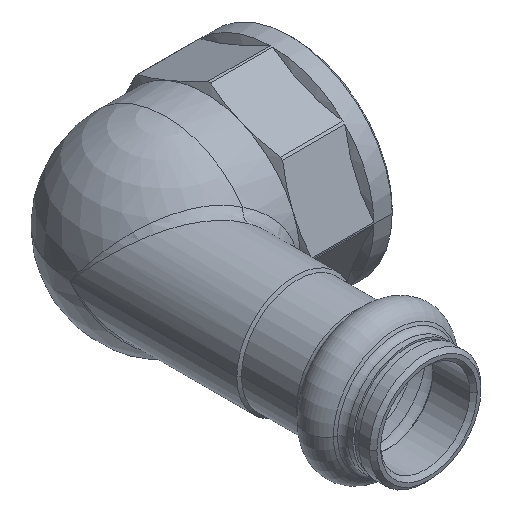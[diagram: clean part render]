
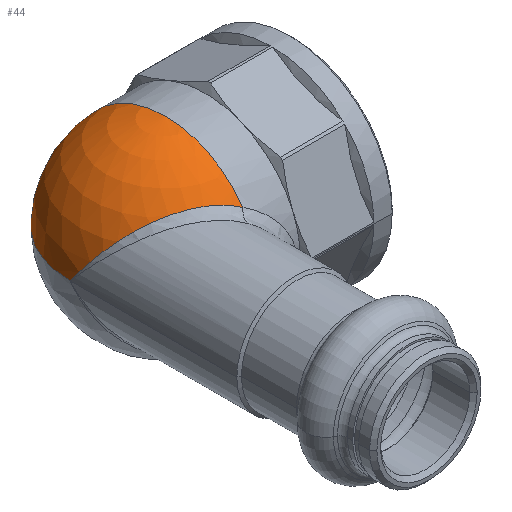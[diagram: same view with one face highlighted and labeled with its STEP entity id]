
A CAD part, isometric view. The second image highlights one B-rep face of the part: STEP entity #44.
In plain terms, the highlighted spherical face has radius 13 mm.
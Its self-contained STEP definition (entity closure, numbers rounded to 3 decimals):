
#32 = CARTESIAN_POINT ( 'NONE',  ( -7.91, -1.02, 1.443 ) ) ;
#44 = ADVANCED_FACE ( 'NONE', ( #2830 ), #1423, .T. ) ;
#48 = CARTESIAN_POINT ( 'NONE',  ( -2.627, -6.828, 8.025 ) ) ;
#200 = VERTEX_POINT ( 'NONE', #2105 ) ;
#249 = ORIENTED_EDGE ( 'NONE', *, *, #1558, .T. ) ;
#266 = AXIS2_PLACEMENT_3D ( 'NONE', #706, #2420, #965 ) ;
#287 = CARTESIAN_POINT ( 'NONE',  ( -7.53, -2.034, 2.839 ) ) ;
#296 = CARTESIAN_POINT ( 'NONE',  ( -1.547, -7.481, 8.388 ) ) ;
#320 = CARTESIAN_POINT ( 'NONE',  ( 5., 0., 0. ) ) ;
#517 = CARTESIAN_POINT ( 'NONE',  ( 5., 0., 0. ) ) ;
#532 = CARTESIAN_POINT ( 'NONE',  ( -8., 0., 0. ) ) ;
#544 = CARTESIAN_POINT ( 'NONE',  ( -7.114, -2.782, 3.835 ) ) ;
#553 = VERTEX_POINT ( 'NONE', #1397 ) ;
#556 = CARTESIAN_POINT ( 'NONE',  ( -0.405, -8.116, 8.609 ) ) ;
#576 = DIRECTION ( 'NONE',  ( 1., 0., 0. ) ) ;
#706 = CARTESIAN_POINT ( 'NONE',  ( 5., 0., 0. ) ) ;
#799 = CARTESIAN_POINT ( 'NONE',  ( -6.576, -3.522, 4.774 ) ) ;
#810 = CARTESIAN_POINT ( 'NONE',  ( 0.763, -8.717, 8.675 ) ) ;
#842 = CARTESIAN_POINT ( 'NONE',  ( 5., -10.614, 7.506 ) ) ;
#925 = ORIENTED_EDGE ( 'NONE', *, *, #1956, .T. ) ;
#965 = DIRECTION ( 'NONE',  ( 0., -1., 0. ) ) ;
#1050 = CARTESIAN_POINT ( 'NONE',  ( -5.913, -4.259, 5.652 ) ) ;
#1059 = CARTESIAN_POINT ( 'NONE',  ( 1.947, -9.287, 8.581 ) ) ;
#1286 = CARTESIAN_POINT ( 'NONE',  ( -4.595, -5.452, 6.927 ) ) ;
#1300 = CARTESIAN_POINT ( 'NONE',  ( 3.519, -9.998, 8.223 ) ) ;
#1357 = CIRCLE ( 'NONE', #3070, 13. ) ;
#1392 = CIRCLE ( 'NONE', #266, 13. ) ;
#1397 = CARTESIAN_POINT ( 'NONE',  ( -8., 0., 0. ) ) ;
#1423 = SPHERICAL_SURFACE ( 'NONE', #3118, 13. ) ;
#1524 = CARTESIAN_POINT ( 'NONE',  ( -3.311, -6.379, 7.709 ) ) ;
#1538 = CARTESIAN_POINT ( 'NONE',  ( 5., -10.614, 7.506 ) ) ;
#1558 = EDGE_CURVE ( 'NONE', #200, #553, #1357, .T. ) ;
#1763 = CARTESIAN_POINT ( 'NONE',  ( -7.641, -1.781, 2.494 ) ) ;
#1773 = CARTESIAN_POINT ( 'NONE',  ( -2.274, -7.048, 8.161 ) ) ;
#1806 = VERTEX_POINT ( 'NONE', #842 ) ;
#1956 = EDGE_CURVE ( 'NONE', #1806, #200, #1392, .T. ) ;
#1980 = DIRECTION ( 'NONE',  ( 0., 0., -1. ) ) ;
#2012 = CARTESIAN_POINT ( 'NONE',  ( -7.266, -2.534, 3.509 ) ) ;
#2022 = CARTESIAN_POINT ( 'NONE',  ( -1.172, -7.695, 8.478 ) ) ;
#2040 = DIRECTION ( 'NONE',  ( 0., 0., 1. ) ) ;
#2105 = CARTESIAN_POINT ( 'NONE',  ( 5., 13., 0. ) ) ;
#2140 = ORIENTED_EDGE ( 'NONE', *, *, #2724, .T. ) ;
#2261 = CARTESIAN_POINT ( 'NONE',  ( -6.769, -3.276, 4.467 ) ) ;
#2275 = CARTESIAN_POINT ( 'NONE',  ( -0.017, -8.32, 8.648 ) ) ;
#2420 = DIRECTION ( 'NONE',  ( -1., 0., 0. ) ) ;
#2475 = EDGE_LOOP ( 'NONE', ( #925, #249, #2140 ) ) ;
#2506 = CARTESIAN_POINT ( 'NONE',  ( -6.148, -4.014, 5.367 ) ) ;
#2520 = CARTESIAN_POINT ( 'NONE',  ( 1.156, -8.91, 8.662 ) ) ;
#2724 = EDGE_CURVE ( 'NONE', #553, #1806, #2930, .T. ) ;
#2770 = CARTESIAN_POINT ( 'NONE',  ( -5.162, -4.983, 6.456 ) ) ;
#2778 = CARTESIAN_POINT ( 'NONE',  ( 2.346, -9.471, 8.512 ) ) ;
#2830 = FACE_OUTER_BOUND ( 'NONE', #2475, .T. ) ;
#2930 = B_SPLINE_CURVE_WITH_KNOTS ( 'NONE', 3,
 ( #532, #3029, #32, #1763, #287, #2012, #544, #2261, #799, #2506, #1050, #2770, #1286, #3041, #1524, #48, #1773, #296, #2022, #556, #2275, #810, #2520, #1059, #2778, #1300, #3052, #1538 ),
 .UNSPECIFIED., .F., .F.,
 ( 4, 2, 2, 2, 2, 2, 2, 2, 2, 2, 2, 2, 2, 4 ),
 ( 0., 0.003, 0.004, 0.005, 0.007, 0.008, 0.011, 0.012, 0.013, 0.015, 0.016, 0.017, 0.019, 0.021 ),
 .UNSPECIFIED. ) ;
#2996 = DIRECTION ( 'NONE',  ( 0., 1., 0. ) ) ;
#3029 = CARTESIAN_POINT ( 'NONE',  ( -8., -0.511, 0.722 ) ) ;
#3041 = CARTESIAN_POINT ( 'NONE',  ( -3.644, -6.149, 7.528 ) ) ;
#3052 = CARTESIAN_POINT ( 'NONE',  ( 4.275, -10.319, 7.924 ) ) ;
#3070 = AXIS2_PLACEMENT_3D ( 'NONE', #320, #2040, #576 ) ;
#3118 = AXIS2_PLACEMENT_3D ( 'NONE', #517, #1980, #2996 ) ;
